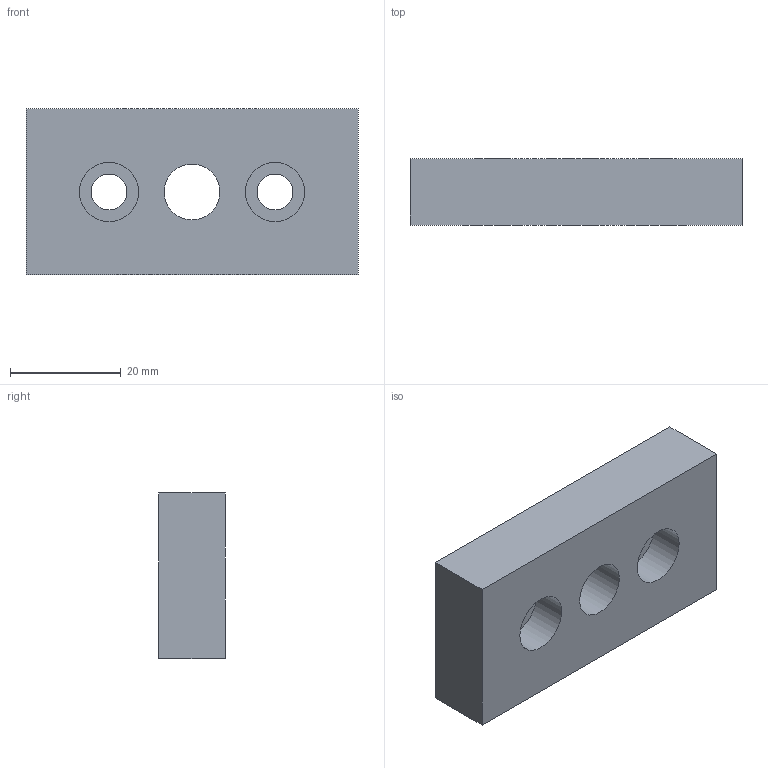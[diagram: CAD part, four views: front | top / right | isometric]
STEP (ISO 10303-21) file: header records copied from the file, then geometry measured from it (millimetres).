
FILE_DESCRIPTION(/* description */ ('Unknown'),/* implementation_level */ '2;1');
FILE_NAME(/* name */ 'FT3060M12',/* time_stamp */ '2026-09-18T10:06:02+08:00',/* author */ ('Unknown'),/* organization */ ('Unknown'),/* preprocessor_version */ 'ST-DEVELOPER v16.7',/* originating_system */ 'DEX',/* authorisation */ $);
FILE_SCHEMA (('AUTOMOTIVE_DESIGN {1 0 10303 214 3 1 1}'));
Length unit declared in the file: millimetre
Products named in the file (1): FT3060FP16 - 複
Bounding box: 60 x 12 x 30 mm (x, y, z)
Volume: 19103.5 mm3; surface area: 6509.4 mm2
Topology: 1 solids, 1 shells, 13 faces, 27 edges, 18 vertices
Faces by surface type: plane 8, cylinder 5
Full cylindrical faces by diameter (mm): 6.5 x2, 10.106 x1, 10.7 x2
Entity records: 453 total; most frequent: DIRECTION 60, CARTESIAN_POINT 54, ORIENTED_EDGE 44, EDGE_LOOP 26, FACE_BOUND 26, AXIS2_PLACEMENT_3D 24, EDGE_CURVE 22, VERTEX_POINT 18
